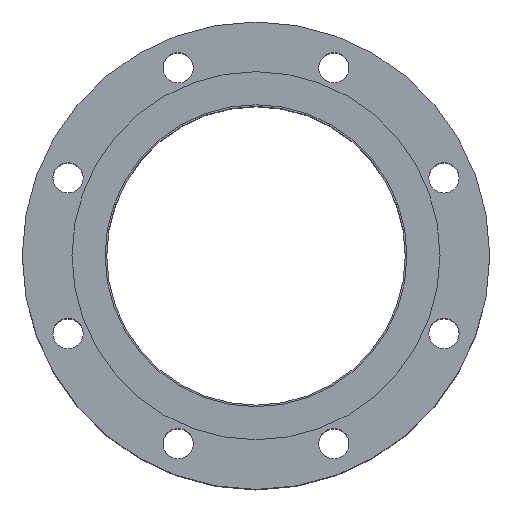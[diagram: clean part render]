
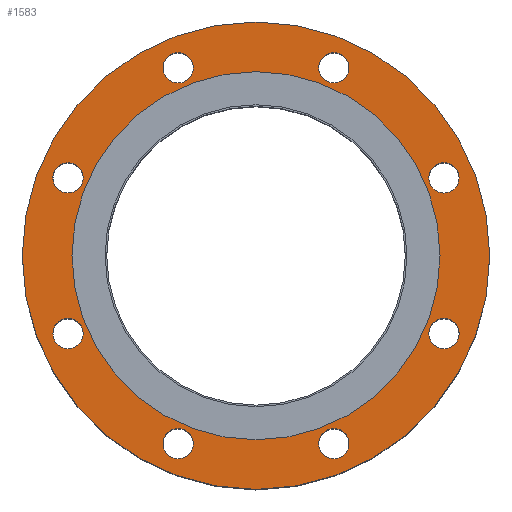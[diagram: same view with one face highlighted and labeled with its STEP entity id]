
A CAD part, top view. The second image highlights one B-rep face of the part: STEP entity #1583.
In plain terms, the highlighted planar face has unit normal (0, 0, 1).
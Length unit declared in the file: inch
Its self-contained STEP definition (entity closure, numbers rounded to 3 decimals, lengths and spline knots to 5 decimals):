
#84=FACE_BOUND('',#411,.T.);
#85=FACE_BOUND('',#412,.T.);
#86=FACE_BOUND('',#413,.T.);
#87=FACE_BOUND('',#414,.T.);
#88=FACE_BOUND('',#415,.T.);
#89=FACE_BOUND('',#416,.T.);
#90=FACE_BOUND('',#417,.T.);
#91=FACE_BOUND('',#418,.T.);
#92=FACE_BOUND('',#419,.T.);
#150=PLANE('',#1788);
#273=FACE_OUTER_BOUND('',#410,.T.);
#410=EDGE_LOOP('',(#1213));
#411=EDGE_LOOP('',(#1214));
#412=EDGE_LOOP('',(#1215));
#413=EDGE_LOOP('',(#1216));
#414=EDGE_LOOP('',(#1217));
#415=EDGE_LOOP('',(#1218));
#416=EDGE_LOOP('',(#1219));
#417=EDGE_LOOP('',(#1220));
#418=EDGE_LOOP('',(#1221));
#419=EDGE_LOOP('',(#1222));
#615=CIRCLE('',#1743,0.4375);
#617=CIRCLE('',#1746,0.4375);
#619=CIRCLE('',#1749,0.4375);
#621=CIRCLE('',#1752,0.4375);
#623=CIRCLE('',#1755,0.4375);
#625=CIRCLE('',#1758,0.4375);
#627=CIRCLE('',#1761,0.4375);
#629=CIRCLE('',#1764,0.4375);
#642=CIRCLE('',#1783,5.315);
#644=CIRCLE('',#1787,6.75);
#803=VERTEX_POINT('',#2758);
#805=VERTEX_POINT('',#2764);
#807=VERTEX_POINT('',#2770);
#809=VERTEX_POINT('',#2776);
#811=VERTEX_POINT('',#2782);
#813=VERTEX_POINT('',#2788);
#815=VERTEX_POINT('',#2794);
#817=VERTEX_POINT('',#2800);
#828=VERTEX_POINT('',#2832);
#830=VERTEX_POINT('',#2839);
#939=EDGE_CURVE('',#803,#803,#615,.T.);
#942=EDGE_CURVE('',#805,#805,#617,.T.);
#945=EDGE_CURVE('',#807,#807,#619,.T.);
#948=EDGE_CURVE('',#809,#809,#621,.T.);
#951=EDGE_CURVE('',#811,#811,#623,.T.);
#954=EDGE_CURVE('',#813,#813,#625,.T.);
#957=EDGE_CURVE('',#815,#815,#627,.T.);
#960=EDGE_CURVE('',#817,#817,#629,.T.);
#976=EDGE_CURVE('',#828,#828,#642,.T.);
#978=EDGE_CURVE('',#830,#830,#644,.T.);
#1213=ORIENTED_EDGE('',*,*,#978,.T.);
#1214=ORIENTED_EDGE('',*,*,#939,.T.);
#1215=ORIENTED_EDGE('',*,*,#942,.T.);
#1216=ORIENTED_EDGE('',*,*,#945,.T.);
#1217=ORIENTED_EDGE('',*,*,#948,.T.);
#1218=ORIENTED_EDGE('',*,*,#951,.T.);
#1219=ORIENTED_EDGE('',*,*,#954,.T.);
#1220=ORIENTED_EDGE('',*,*,#957,.T.);
#1221=ORIENTED_EDGE('',*,*,#960,.T.);
#1222=ORIENTED_EDGE('',*,*,#976,.T.);
#1583=ADVANCED_FACE('',(#273,#84,#85,#86,#87,#88,#89,#90,#91,#92),#150,
 .T.);
#1743=AXIS2_PLACEMENT_3D('',#2759,#2079,#2080);
#1746=AXIS2_PLACEMENT_3D('',#2765,#2086,#2087);
#1749=AXIS2_PLACEMENT_3D('',#2771,#2093,#2094);
#1752=AXIS2_PLACEMENT_3D('',#2777,#2100,#2101);
#1755=AXIS2_PLACEMENT_3D('',#2783,#2107,#2108);
#1758=AXIS2_PLACEMENT_3D('',#2789,#2114,#2115);
#1761=AXIS2_PLACEMENT_3D('',#2795,#2121,#2122);
#1764=AXIS2_PLACEMENT_3D('',#2801,#2128,#2129);
#1783=AXIS2_PLACEMENT_3D('',#2834,#2169,#2170);
#1787=AXIS2_PLACEMENT_3D('',#2840,#2177,#2178);
#1788=AXIS2_PLACEMENT_3D('',#2842,#2180,#2181);
#2079=DIRECTION('center_axis',(0.,0.,-1.));
#2080=DIRECTION('ref_axis',(0.707,-0.707,0.));
#2086=DIRECTION('center_axis',(0.,0.,-1.));
#2087=DIRECTION('ref_axis',(0.,-1.,0.));
#2093=DIRECTION('center_axis',(0.,0.,-1.));
#2094=DIRECTION('ref_axis',(-0.707,-0.707,0.));
#2100=DIRECTION('center_axis',(0.,0.,-1.));
#2101=DIRECTION('ref_axis',(-1.,0.,0.));
#2107=DIRECTION('center_axis',(0.,0.,-1.));
#2108=DIRECTION('ref_axis',(-0.707,0.707,0.));
#2114=DIRECTION('center_axis',(0.,0.,-1.));
#2115=DIRECTION('ref_axis',(0.,1.,0.));
#2121=DIRECTION('center_axis',(0.,0.,-1.));
#2122=DIRECTION('ref_axis',(0.707,0.707,0.));
#2128=DIRECTION('center_axis',(0.,0.,-1.));
#2129=DIRECTION('ref_axis',(1.,0.,0.));
#2169=DIRECTION('center_axis',(0.,0.,-1.));
#2170=DIRECTION('ref_axis',(0.,1.,0.));
#2177=DIRECTION('center_axis',(0.,0.,1.));
#2178=DIRECTION('ref_axis',(1.,0.,0.));
#2180=DIRECTION('center_axis',(0.,0.,1.));
#2181=DIRECTION('ref_axis',(1.,0.,0.));
#2758=CARTESIAN_POINT('',(1.93891,5.73715,0.53));
#2759=CARTESIAN_POINT('Origin',(2.24827,5.42779,0.53));
#2764=CARTESIAN_POINT('',(5.42779,2.68577,0.53));
#2765=CARTESIAN_POINT('Origin',(5.42779,2.24827,0.53));
#2770=CARTESIAN_POINT('',(5.73715,-1.93891,0.53));
#2771=CARTESIAN_POINT('Origin',(5.42779,-2.24827,0.53));
#2776=CARTESIAN_POINT('',(2.68577,-5.42779,0.53));
#2777=CARTESIAN_POINT('Origin',(2.24827,-5.42779,0.53));
#2782=CARTESIAN_POINT('',(-1.93891,-5.73715,0.53));
#2783=CARTESIAN_POINT('Origin',(-2.24827,-5.42779,0.53));
#2788=CARTESIAN_POINT('',(-5.42779,-2.68577,0.53));
#2789=CARTESIAN_POINT('Origin',(-5.42779,-2.24827,0.53));
#2794=CARTESIAN_POINT('',(-5.73715,1.93891,0.53));
#2795=CARTESIAN_POINT('Origin',(-5.42779,2.24827,0.53));
#2800=CARTESIAN_POINT('',(-2.68577,5.42779,0.53));
#2801=CARTESIAN_POINT('Origin',(-2.24827,5.42779,0.53));
#2832=CARTESIAN_POINT('',(0.,-5.315,0.53));
#2834=CARTESIAN_POINT('Origin',(0.,0.,0.53));
#2839=CARTESIAN_POINT('',(0.,-6.75,0.53));
#2840=CARTESIAN_POINT('Origin',(0.,0.,0.53));
#2842=CARTESIAN_POINT('Origin',(0.,4.36,0.53));
